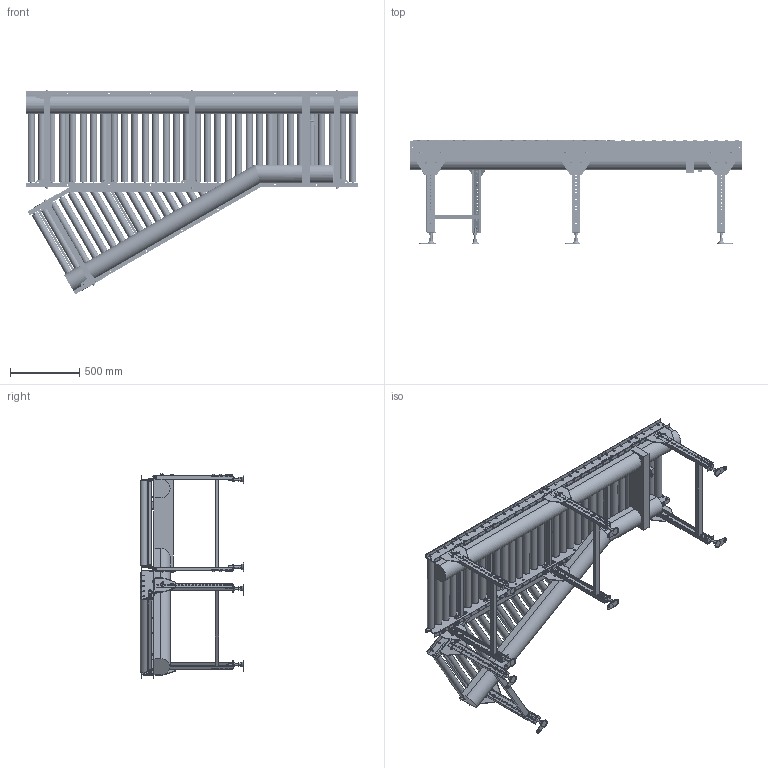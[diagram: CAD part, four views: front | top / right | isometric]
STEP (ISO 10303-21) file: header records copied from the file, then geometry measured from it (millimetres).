
FILE_DESCRIPTION( (''), '2;1');
FILE_NAME ('WEB-MCD-50-630-75-240-L-J30.stp','2025-07-01T15:55:44',(''),(''),'spGate 20.6.2 (****-****-****-****)','','');
FILE_SCHEMA (('AUTOMOTIVE_DESIGN'));
Length unit declared in the file: millimetre
Products named in the file (71): WEB-MCD-50-630-75-240-L-J30; TEMP_X_T-prt0; TEMP_X_T-prt1; TEMP_X_T-prt2; TEMP_X_T-prt3; TEMP_X_T-prt4; TEMP_X_T-prt5; TEMP_X_T-prt6; TEMP_X_T-prt7; TEMP_X_T-prt8; TEMP_X_T-prt9; TEMP_X_T-prt10; TEMP_X_T-prt11; TEMP_X_T-prt12; TEMP_X_T-prt13; TEMP_X_T-prt14; TEMP_X_T-prt15; TEMP_X_T-prt16; TEMP_X_T-prt17; TEMP_X_T-prt18; TEMP_X_T-prt19; TEMP_X_T-prt20; TEMP_X_T-prt21; TEMP_X_T-prt22; TEMP_X_T-prt23; TEMP_X_T-prt24; TEMP_X_T-prt25; TEMP_X_T-prt26; TEMP_X_T-prt27; TEMP_X_T-prt28; TEMP_X_T-prt29; TEMP_X_T-prt30; TEMP_X_T-prt31; TEMP_X_T-prt32; TEMP_X_T-prt33; TEMP_X_T-prt34; TEMP_X_T-prt35; TEMP_X_T-prt36; TEMP_X_T-prt37; TEMP_X_T-prt38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
Assembly tree (70 placements, depth 2):
  WEB-MCD-50-630-75-240-L-J30
    TEMP_X_T-prt0
    TEMP_X_T-prt1
    TEMP_X_T-prt2
    TEMP_X_T-prt3
    TEMP_X_T-prt4
    TEMP_X_T-prt5
    TEMP_X_T-prt6
    TEMP_X_T-prt7
    TEMP_X_T-prt8
    TEMP_X_T-prt9
    TEMP_X_T-prt10
    TEMP_X_T-prt11
    TEMP_X_T-prt12
    TEMP_X_T-prt13
    TEMP_X_T-prt14
    TEMP_X_T-prt15
    TEMP_X_T-prt16
    TEMP_X_T-prt17
    TEMP_X_T-prt18
    TEMP_X_T-prt19
    TEMP_X_T-prt20
    TEMP_X_T-prt21
    TEMP_X_T-prt22
    TEMP_X_T-prt23
    TEMP_X_T-prt24
    TEMP_X_T-prt25
    TEMP_X_T-prt26
    TEMP_X_T-prt27
    TEMP_X_T-prt28
    TEMP_X_T-prt29
    TEMP_X_T-prt30
    TEMP_X_T-prt31
    TEMP_X_T-prt32
    TEMP_X_T-prt33
    TEMP_X_T-prt34
    TEMP_X_T-prt35
    TEMP_X_T-prt36
    TEMP_X_T-prt37
    TEMP_X_T-prt38
    TEMP_X_T-prt39
    TEMP_X_T-prt40
    TEMP_X_T-prt41
    TEMP_X_T-prt42
    TEMP_X_T-prt43
    TEMP_X_T-prt44
    TEMP_X_T-prt45
    TEMP_X_T-prt46
    TEMP_X_T-prt47
    TEMP_X_T-prt48
    TEMP_X_T-prt49
    TEMP_X_T-prt50
    TEMP_X_T-prt51
    TEMP_X_T-prt52
    TEMP_X_T-prt53
    TEMP_X_T-prt54
    TEMP_X_T-prt55
    TEMP_X_T-prt56
    TEMP_X_T-prt57
    TEMP_X_T-prt58
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Bounding box: 2400 x 750 x 1478.18 mm (x, y, z)
Volume: 133663825.5 mm3; surface area: 11458467.8 mm2
Topology: 70 solids, 110 shells, 4457 faces, 12057 edges, 7950 vertices
Faces by surface type: plane 3511, cylinder 938, bspline 8
Full cylindrical faces by diameter (mm): 9 x13, 10 x108, 10.5 x184, 11 x94, 12 x88, 13 x27, 16 x8, 18.4 x48, 18.5 x16, 21 x24, 50.8 x50
Entity records: 239788 total; most frequent: CARTESIAN_POINT 26420, DIRECTION 24255, ORIENTED_EDGE 24114, COLOUR_RGB 16584, PRESENTATION_STYLE_ASSIGNMENT 16584, STYLED_ITEM 16584, EDGE_CURVE 12057, DRAUGHTING_PRE_DEFINED_CURVE_FONT 12057
